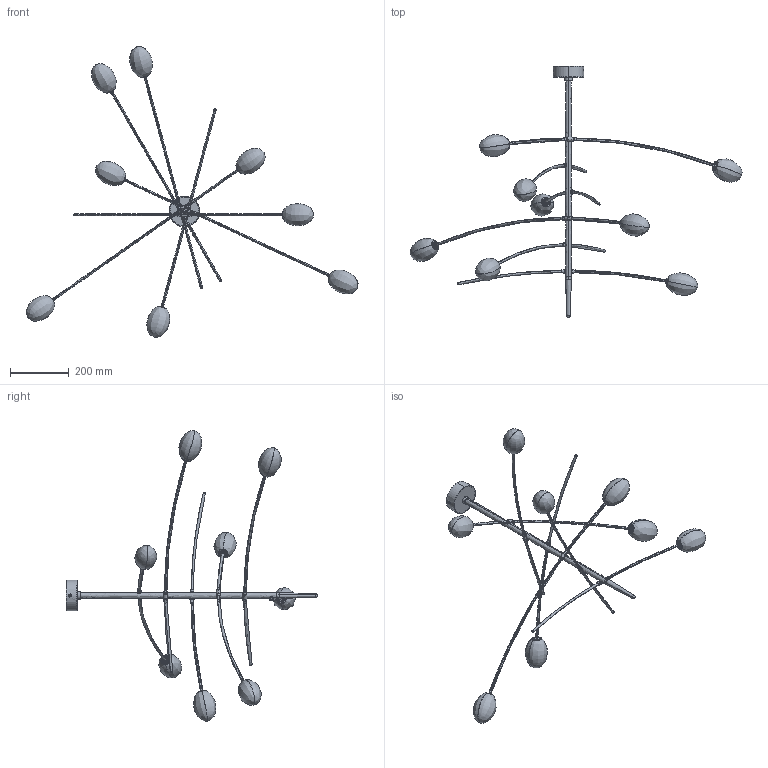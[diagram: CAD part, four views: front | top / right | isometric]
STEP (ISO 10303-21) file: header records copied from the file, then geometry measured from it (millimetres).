
FILE_DESCRIPTION(/* description */ (''),/* implementation_level */ '2;1');
FILE_NAME(/* name */ 'P112__~1',/* time_stamp */ '2024-07-03T16:52:24+02:00',/* author */ (''),/* organization */ (''),/* preprocessor_version */ 'ST-DEVELOPER v16.5',/* originating_system */ '',/* authorisation */ '');
FILE_SCHEMA (('AUTOMOTIVE_DESIGN'));
Length unit declared in the file: millimetre
Products named in the file (1): Document
Bounding box: 1129.34 x 854.03 x 988.52 mm (x, y, z)
Volume: 813565.3 mm3; surface area: 664805.3 mm2
Topology: 36 solids, 42 shells, 613 faces, 1479 edges, 918 vertices
Faces by surface type: bspline 505, plane 108
Entity records: 50632 total; most frequent: CARTESIAN_POINT 42245, ORIENTED_EDGE 2837, EDGE_CURVE 1433, VERTEX_POINT 918, EDGE_LOOP 702, B_SPLINE_CURVE_WITH_KNOTS 614, ADVANCED_FACE 613, FACE_OUTER_BOUND 613
